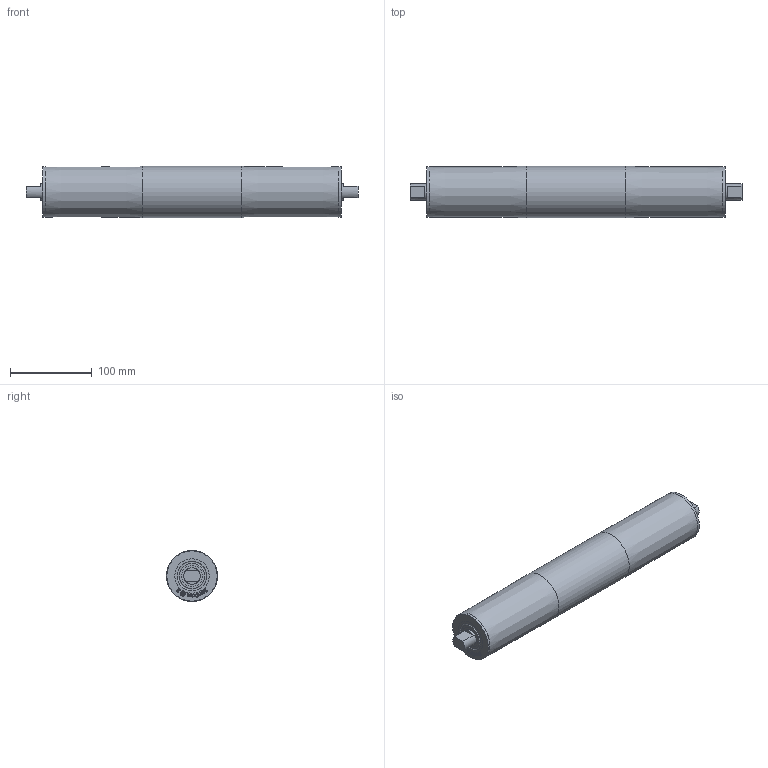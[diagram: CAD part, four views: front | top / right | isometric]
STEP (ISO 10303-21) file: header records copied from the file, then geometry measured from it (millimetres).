
FILE_DESCRIPTION(/* description */ (''),/* implementation_level */ '2;1');
FILE_NAME(/* name */ 'C:\WF_Ellegaard\Designs\00 standart komponenter\Tromlemotor\Scandrive S\Ø60\Scandrive S Ø60 RL365.stp',/* time_stamp */ '2017-04-14T11:40:45+02:00',/* author */ ('guh'),/* organization */ (''),/* preprocessor_version */ 'ST-DEVELOPER v15.6',/* originating_system */ 'Autodesk Inventor 2015',/* authorisation */ '');
FILE_SCHEMA (('AUTOMOTIVE_DESIGN { 1 0 10303 214 3 1 1 }'));
Length unit declared in the file: millimetre
Products named in the file (1): Scandrive S Ø60 RL365
Bounding box: 406 x 62.5 x 62.5 mm (x, y, z)
Volume: 295727.6 mm3; surface area: 146546.6 mm2
Topology: 1 solids, 2 shells, 454 faces, 1186 edges, 790 vertices
Faces by surface type: plane 236, bspline 196, cylinder 16, cone 4, torus 2
Full cylindrical faces by diameter (mm): 20 x2, 26 x2, 26.02 x2, 41.98 x2, 42 x2, 57 x1, 61.5 x2, 61.505 x2, 62.5 x1
Entity records: 14806 total; most frequent: CARTESIAN_POINT 4953, ORIENTED_EDGE 2324, DIRECTION 1336, EDGE_CURVE 1162, VERTEX_POINT 788, LINE 722, VECTOR 722, EDGE_LOOP 530
